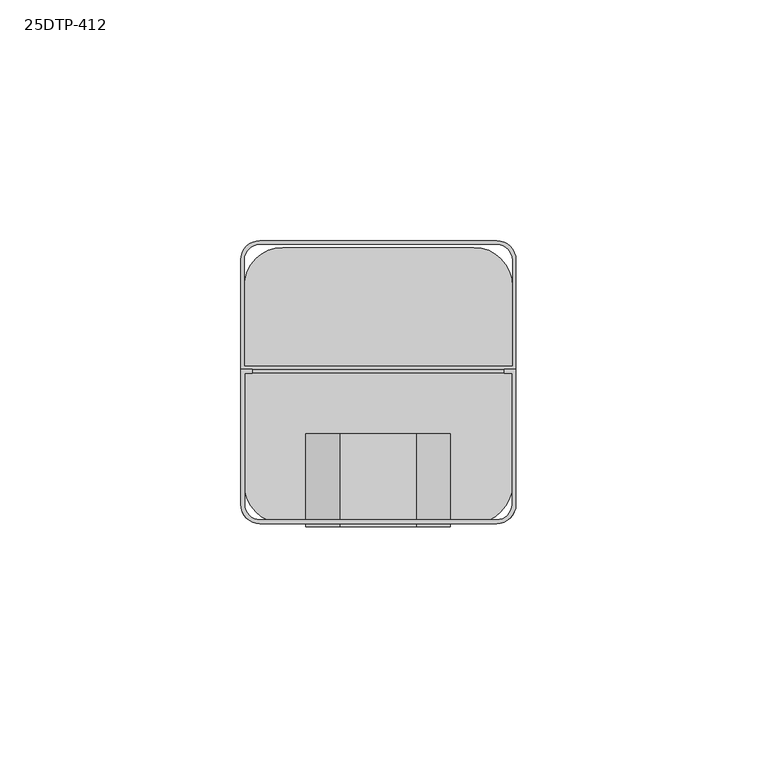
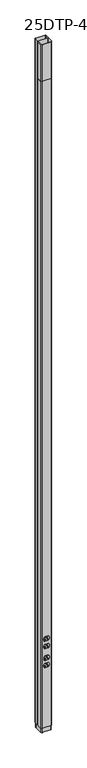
"""IFC4 building model written with IfcOpenShell, lengths in millimetres: proxy geometry, Vertical_Drop_Poles-Wiremold-Steel_Tele-Power_Pole : 25DTP-412."""

from ifc_helpers import new_model, si_unit, point, frame, frame_2d, origin, origin_with_axes, place, context, project, spatial, polyline, circle_curve, trimmed, segment, composite_curve, outline, extrude, source, transform, mapped, element, save


def proxy_25dtp_412_37fd066d(model_context):
    return source(origin(), model_context, "Body", "SweptSolid", [
        extrude(outline(composite_curve([segment(polyline([(28.575, 31.25), (28.575, 3.25)]), True, "CONTINUOUS"), segment(trimmed(circle_curve(frame_2d((24.575, 3.25)), 4.0), [point((28.575, 3.25))], [point((24.575, -0.75))], False, "CARTESIAN"), True, "CONTINUOUS"), segment(polyline([(24.575, -0.75), (-24.575, -0.75)]), True, "CONTINUOUS"), segment(trimmed(circle_curve(frame_2d((-24.575, 3.25)), 4.0), [point((-24.575, -0.75))], [point((-28.575, 3.25))], False, "CARTESIAN"), True, "CONTINUOUS"), segment(polyline([(-28.575, 3.25), (-28.575, 31.25), (-26.1875, 31.25), (-26.1875, 30.45), (-27.775, 30.45), (-27.775, 3.25)]), True, "CONTINUOUS"), segment(trimmed(circle_curve(frame_2d((-24.575, 3.25)), 3.2), [point((-27.775, 3.25))], [point((-24.575, 0.05))], True, "CARTESIAN"), True, "CONTINUOUS"), segment(polyline([(-24.575, 0.05), (24.575, 0.05)]), True, "CONTINUOUS"), segment(trimmed(circle_curve(frame_2d((24.575, 3.25)), 3.2), [point((24.575, 0.05))], [point((27.775, 3.25))], True, "CARTESIAN"), True, "CONTINUOUS"), segment(polyline([(27.775, 3.25), (27.775, 30.45), (26.1875, 30.45), (26.1875, 31.25), (28.575, 31.25)]), True, "CONTINUOUS")], self_intersect=False)), frame((0.0, 0.0, 3581.4), z_axis=(0.0, 0.0, 1.0), x_axis=(1.0, 0.0, 0.0)), (0.0, 0.0, 1.0), 203.2),
        extrude(outline(composite_curve([segment(trimmed(circle_curve(frame_2d((488.7029331, -1.1591271)), 13.933707), [point((500.85, -7.9853234))], [point((488.7029331, -15.092834))], False, "CARTESIAN"), True, "CONTINUOUS"), segment(polyline([(488.7029331, -15.092834), (486.7854081, -15.092834)]), True, "CONTINUOUS"), segment(trimmed(circle_curve(frame_2d((486.7854081, -0.9909304)), 14.1019036), [point((486.7854081, -15.092834))], [point((474.85, -8.5015708))], False, "CARTESIAN"), True, "CONTINUOUS"), segment(polyline([(474.85, -8.5015708), (474.85, 8.5041234)]), True, "CONTINUOUS"), segment(trimmed(circle_curve(frame_2d((486.6576313, 0.982166)), 14.0), [point((474.85, 8.5041234))], [point((486.6576313, 14.982166))], False, "CARTESIAN"), True, "CONTINUOUS"), segment(polyline([(486.6576313, 14.982166), (488.7451343, 14.982166)]), True, "CONTINUOUS"), segment(trimmed(circle_curve(frame_2d((488.7451343, 0.9958893)), 13.9862766), [point((488.7451343, 14.982166))], [point((500.85, 8.0021838))], False, "CARTESIAN"), True, "CONTINUOUS"), segment(polyline([(500.85, 8.0021838), (500.85, -7.9853234)]), True, "CONTINUOUS")], self_intersect=False), holes=[polyline([(486.9892021, -5.530934), (479.0517021, -5.530934), (479.0517021, -7.1202895), (486.9892021, -7.1202895), (486.9892021, -5.530934)]), polyline([(479.8454521, 5.29348), (486.1954521, 5.29348), (486.1954521, 6.8797105), (479.8454521, 6.8797105), (479.8454521, 5.29348)]), composite_curve([segment(polyline([(497.4329521, 2.240599), (494.2579521, 2.240599)]), True, "CONTINUOUS"), segment(trimmed(circle_curve(frame_2d((494.2579521, -0.140651)), 2.38125), [point((494.2579521, 2.240599))], [point((494.2579521, -2.521901))], True, "CARTESIAN"), True, "CONTINUOUS"), segment(polyline([(494.2579521, -2.521901), (497.4329521, -2.521901), (497.4329521, 2.240599)]), True, "CONTINUOUS")], self_intersect=False)]), frame((0.0, -0.8603814, 0.0), z_axis=(0.0, 1.0, 0.0), x_axis=(0.0, 0.0, 1.0)), (0.0, 0.0, 1.0), 19.3625),
        extrude(outline(composite_curve([segment(polyline([(459.05, 8.7098868), (459.05, -8.7111214)]), True, "CONTINUOUS"), segment(trimmed(circle_curve(frame_2d((447.3453879, -1.1683429)), 13.9244911), [point((459.05, -8.7111214))], [point((447.3453879, -15.092834))], False, "CARTESIAN"), True, "CONTINUOUS"), segment(polyline([(447.3453879, -15.092834), (445.4207127, -15.092834)]), True, "CONTINUOUS"), segment(trimmed(circle_curve(frame_2d((445.4207127, -0.9820385)), 14.1107955), [point((445.4207127, -15.092834))], [point((433.05, -7.7702649))], False, "CARTESIAN"), True, "CONTINUOUS"), segment(polyline([(433.05, -7.7702649), (433.05, 7.7817126)]), True, "CONTINUOUS"), segment(trimmed(circle_curve(frame_2d((445.293109, 0.9733088)), 14.0088572), [point((433.05, 7.7817126))], [point((445.293109, 14.982166))], False, "CARTESIAN"), True, "CONTINUOUS"), segment(polyline([(445.293109, 14.982166), (447.3875692, 14.982166)]), True, "CONTINUOUS"), segment(trimmed(circle_curve(frame_2d((447.3875692, 1.0036923)), 13.9784736), [point((447.3875692, 14.982166))], [point((459.05, 8.7098868))], False, "CARTESIAN"), True, "CONTINUOUS")], self_intersect=False), holes=[polyline([(445.5892021, -5.6947448), (437.6517021, -5.6947448), (437.6517021, -7.2841003), (445.5892021, -7.2841003), (445.5892021, -5.6947448)]), polyline([(438.4454521, 5.29348), (444.7954521, 5.29348), (444.7954521, 6.8797105), (438.4454521, 6.8797105), (438.4454521, 5.29348)]), composite_curve([segment(polyline([(456.0329521, 2.240599), (452.8579521, 2.240599)]), True, "CONTINUOUS"), segment(trimmed(circle_curve(frame_2d((452.8579521, -0.140651)), 2.38125), [point((452.8579521, 2.240599))], [point((452.8579521, -2.521901))], True, "CARTESIAN"), True, "CONTINUOUS"), segment(polyline([(452.8579521, -2.521901), (456.0329521, -2.521901), (456.0329521, 2.240599)]), True, "CONTINUOUS")], self_intersect=False)]), frame((0.0, -0.8603814, 0.0), z_axis=(0.0, 1.0, 0.0), x_axis=(0.0, 0.0, 1.0)), (0.0, 0.0, 1.0), 19.3625),
        extrude(outline(composite_curve([segment(trimmed(circle_curve(frame_2d((19.825, 49.2375)), 8.0), [point((19.825, 57.2375))], [point((27.825, 49.2375))], False, "CARTESIAN"), True, "CONTINUOUS"), segment(polyline([(27.825, 49.2375), (27.825, 8.0)]), True, "CONTINUOUS"), segment(trimmed(circle_curve(frame_2d((19.825, 8.0)), 8.0), [point((27.825, 8.0))], [point((19.825, 0.0))], False, "CARTESIAN"), True, "CONTINUOUS"), segment(polyline([(19.825, 0.0), (-19.825, 0.0)]), True, "CONTINUOUS"), segment(trimmed(circle_curve(frame_2d((-19.825, 8.0)), 8.0), [point((-19.825, 0.0))], [point((-27.825, 8.0))], False, "CARTESIAN"), True, "CONTINUOUS"), segment(polyline([(-27.825, 8.0), (-27.825, 49.2375)]), True, "CONTINUOUS"), segment(trimmed(circle_curve(frame_2d((-19.825, 49.2375)), 8.0), [point((-27.825, 49.2375))], [point((-19.825, 57.2375))], False, "CARTESIAN"), True, "CONTINUOUS"), segment(polyline([(-19.825, 57.2375), (19.825, 57.2375)]), True, "CONTINUOUS")], self_intersect=False)), frame((0.0, 0.0, -25.4), z_axis=(0.0, 0.0, 1.0), x_axis=(1.0, 0.0, 0.0)), (0.0, 0.0, 1.0), 25.4),
        extrude(outline(composite_curve([segment(trimmed(circle_curve(frame_2d((382.9267215, -1.3683703)), 13.514578), [point((394.7420503, -7.9289972))], [point((382.9267215, -14.8829484))], False, "CARTESIAN"), True, "CONTINUOUS"), segment(polyline([(382.9267215, -14.8829484), (381.1701673, -14.8829484)]), True, "CONTINUOUS"), segment(trimmed(circle_curve(frame_2d((381.1701673, -0.7955272)), 14.0874212), [point((381.1701673, -14.8829484))], [point((369.2960251, -8.3757767))], False, "CARTESIAN"), True, "CONTINUOUS"), segment(polyline([(369.2960251, -8.3757767), (369.2960251, 8.3803147)]), True, "CONTINUOUS"), segment(trimmed(circle_curve(frame_2d((380.7601645, 0.7899761)), 13.749172), [point((369.2960251, 8.3803147))], [point((380.7601645, 14.5391481))], False, "CARTESIAN"), True, "CONTINUOUS"), segment(polyline([(380.7601645, 14.5391481), (382.9712291, 14.5391481)]), True, "CONTINUOUS"), segment(trimmed(circle_curve(frame_2d((382.9712291, 0.7346672)), 13.8044809), [point((382.9712291, 14.5391481))], [point((394.7420503, 7.9465645))], False, "CARTESIAN"), True, "CONTINUOUS"), segment(polyline([(394.7420503, 7.9465645), (394.7420503, -7.9289972)]), True, "CONTINUOUS")], self_intersect=False), holes=[polyline([(381.1730138, -5.530934), (373.5125012, -5.530934), (373.5125012, -7.1202895), (381.1730138, -7.1202895), (381.1730138, -5.530934)]), polyline([(374.3062512, 5.29348), (380.3792638, 5.29348), (380.3792638, 6.8797105), (374.3062512, 6.8797105), (374.3062512, 5.29348)]), composite_curve([segment(polyline([(391.6167638, 2.240599), (388.4417638, 2.240599)]), True, "CONTINUOUS"), segment(trimmed(circle_curve(frame_2d((388.4417638, -0.140651)), 2.38125), [point((388.4417638, 2.240599))], [point((388.4417638, -2.521901))], True, "CARTESIAN"), True, "CONTINUOUS"), segment(polyline([(388.4417638, -2.521901), (391.6167638, -2.521901), (391.6167638, 2.240599)]), True, "CONTINUOUS")], self_intersect=False)]), frame((0.0, -0.8603814, 0.0), z_axis=(0.0, 1.0, 0.0), x_axis=(0.0, 0.0, 1.0)), (0.0, 0.0, 1.0), 19.3625),
        extrude(outline(composite_curve([segment(polyline([(353.4960251, 8.732199), (353.4960251, -8.7339979)]), True, "CONTINUOUS"), segment(trimmed(circle_curve(frame_2d((341.9368061, -1.0863882)), 13.8600678), [point((353.4960251, -8.7339979))], [point((341.9368061, -14.946456))], False, "CARTESIAN"), True, "CONTINUOUS"), segment(polyline([(341.9368061, -14.946456), (340.151998, -14.946456)]), True, "CONTINUOUS"), segment(trimmed(circle_curve(frame_2d((340.151998, -1.1565771)), 13.7898789), [point((340.151998, -14.946456))], [point((328.05, -7.7673565))], False, "CARTESIAN"), True, "CONTINUOUS"), segment(polyline([(328.05, -7.7673565), (328.05, 7.7787932)]), True, "CONTINUOUS"), segment(trimmed(circle_curve(frame_2d((340.0358326, 0.6795122)), 13.930541), [point((328.05, 7.7787932))], [point((340.0358326, 14.6100532))], False, "CARTESIAN"), True, "CONTINUOUS"), segment(polyline([(340.0358326, 14.6100532), (342.2553533, 14.6100532)]), True, "CONTINUOUS"), segment(trimmed(circle_curve(frame_2d((342.2553533, 0.9229263)), 13.6871269), [point((342.2553533, 14.6100532))], [point((353.4960251, 8.732199))], False, "CARTESIAN"), True, "CONTINUOUS")], self_intersect=False), holes=[polyline([(340.3269886, -5.6947448), (332.6664761, -5.6947448), (332.6664761, -7.2841003), (340.3269886, -7.2841003), (340.3269886, -5.6947448)]), polyline([(333.4602261, 5.29348), (339.5332386, 5.29348), (339.5332386, 6.8797105), (333.4602261, 6.8797105), (333.4602261, 5.29348)]), composite_curve([segment(polyline([(350.4937512, 2.240599), (347.5957386, 2.240599)]), True, "CONTINUOUS"), segment(trimmed(circle_curve(frame_2d((347.5957386, -0.140651)), 2.38125), [point((347.5957386, 2.240599))], [point((347.5957386, -2.521901))], True, "CARTESIAN"), True, "CONTINUOUS"), segment(polyline([(347.5957386, -2.521901), (350.4937512, -2.521901), (350.4937512, 2.240599)]), True, "CONTINUOUS")], self_intersect=False)]), frame((0.0, -0.8603814, 0.0), z_axis=(0.0, 1.0, 0.0), x_axis=(0.0, 0.0, 1.0)), (0.0, 0.0, 1.0), 19.3625),
        extrude(outline(composite_curve([segment(trimmed(circle_curve(frame_2d((24.575, 53.9875)), 4.0), [point((24.575, 57.9875))], [point((28.575, 53.9875))], False, "CARTESIAN"), True, "CONTINUOUS"), segment(polyline([(28.575, 53.9875), (28.575, 31.25), (-28.575, 31.25), (-28.575, 53.9875)]), True, "CONTINUOUS"), segment(trimmed(circle_curve(frame_2d((-24.575, 53.9875)), 4.0), [point((-28.575, 53.9875))], [point((-24.575, 57.9875))], False, "CARTESIAN"), True, "CONTINUOUS"), segment(polyline([(-24.575, 57.9875), (24.575, 57.9875)]), True, "CONTINUOUS")], self_intersect=False), holes=[composite_curve([segment(polyline([(27.775, 32.05), (27.775, 53.9875)]), True, "CONTINUOUS"), segment(trimmed(circle_curve(frame_2d((24.575, 53.9875)), 3.2), [point((27.775, 53.9875))], [point((24.575, 57.1875))], True, "CARTESIAN"), True, "CONTINUOUS"), segment(polyline([(24.575, 57.1875), (-24.575, 57.1875)]), True, "CONTINUOUS"), segment(trimmed(circle_curve(frame_2d((-24.575, 53.9875)), 3.2), [point((-24.575, 57.1875))], [point((-27.775, 53.9875))], True, "CARTESIAN"), True, "CONTINUOUS"), segment(polyline([(-27.775, 53.9875), (-27.775, 32.05), (27.775, 32.05)]), True, "CONTINUOUS")], self_intersect=False)]), origin_with_axes(), (0.0, 0.0, 1.0), 3784.6),
        extrude(outline(composite_curve([segment(polyline([(28.575, 31.25), (28.575, 3.25)]), True, "CONTINUOUS"), segment(trimmed(circle_curve(frame_2d((24.575, 3.25)), 4.0), [point((28.575, 3.25))], [point((24.575, -0.75))], False, "CARTESIAN"), True, "CONTINUOUS"), segment(polyline([(24.575, -0.75), (-24.575, -0.75)]), True, "CONTINUOUS"), segment(trimmed(circle_curve(frame_2d((-24.575, 3.25)), 4.0), [point((-24.575, -0.75))], [point((-28.575, 3.25))], False, "CARTESIAN"), True, "CONTINUOUS"), segment(polyline([(-28.575, 3.25), (-28.575, 31.25), (28.575, 31.25)]), True, "CONTINUOUS")], self_intersect=False), holes=[composite_curve([segment(polyline([(-27.775, 30.45), (-27.775, 3.25)]), True, "CONTINUOUS"), segment(trimmed(circle_curve(frame_2d((-24.575, 3.25)), 3.2), [point((-27.775, 3.25))], [point((-24.575, 0.05))], True, "CARTESIAN"), True, "CONTINUOUS"), segment(polyline([(-24.575, 0.05), (24.575, 0.05)]), True, "CONTINUOUS"), segment(trimmed(circle_curve(frame_2d((24.575, 3.25)), 3.2), [point((24.575, 0.05))], [point((27.775, 3.25))], True, "CARTESIAN"), True, "CONTINUOUS"), segment(polyline([(27.775, 3.25), (27.775, 30.45), (-27.775, 30.45)]), True, "CONTINUOUS")], self_intersect=False)]), origin_with_axes(), (0.0, 0.0, 1.0), 3581.4),
    ])


if __name__ == "__main__":
    model = new_model("IFC4")
    model_context = context("Model", 3, world=origin())
    ifc_project = project(units=[si_unit("LENGTHUNIT", "METRE", prefix="MILLI")], contexts=[model_context])
    site = spatial("IfcSite", under=ifc_project)
    building = spatial("IfcBuilding", under=site)
    placement = place(None, origin())
    proxy_25dtp_412_shape = proxy_25dtp_412_37fd066d(model_context)
    element("IfcBuildingElementProxy", 1, Name="Vertical_Drop_Poles-Wiremold-Steel_Tele-Power_Pole : 25DTP-412", ObjectType="Vertical_Drop_Poles-Wiremold-Steel_Tele-Power_Pole : 25DTP-412", at=placement, inside=building, context=model_context, shape_type="MappedRepresentation", body=[
        mapped(proxy_25dtp_412_shape, transform((0.0, 0.0, 0.0), x_axis=(1.0, 0.0, 0.0), y_axis=(0.0, 1.0, 0.0), z_axis=(0.0, 0.0, 1.0))),
    ])
    save(model, "model.ifc")
